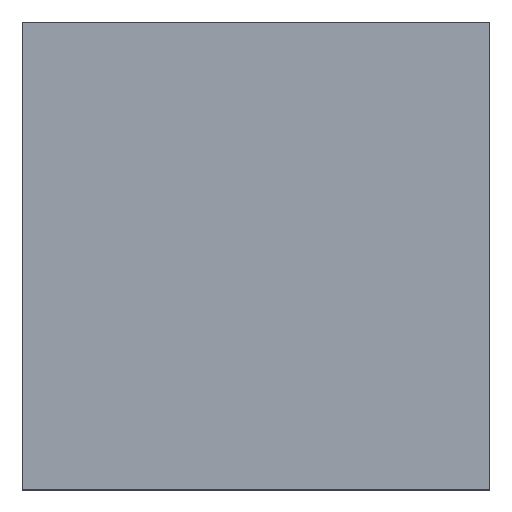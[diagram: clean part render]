
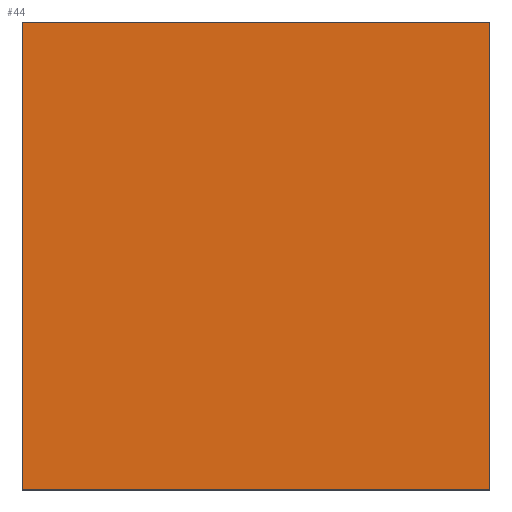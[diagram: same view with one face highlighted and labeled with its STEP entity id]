
A CAD part, top view. The second image highlights one B-rep face of the part: STEP entity #44.
In plain terms, the highlighted planar face has unit normal (0, 0, 1).
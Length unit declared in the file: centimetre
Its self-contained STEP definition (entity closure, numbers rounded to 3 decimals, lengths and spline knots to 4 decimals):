
#1 = EDGE_CURVE ( 'NONE', #108, #120, #337, .T. ) ;
#2 = VECTOR ( 'NONE', #112, 100. ) ;
#11 = ORIENTED_EDGE ( 'NONE', *, *, #398, .T. ) ;
#37 = ORIENTED_EDGE ( 'NONE', *, *, #416, .T. ) ;
#44 = ADVANCED_FACE ( 'NONE', ( #92 ), #102, .T. ) ;
#49 = CARTESIAN_POINT ( 'NONE',  ( 0., 0., 1000. ) ) ;
#52 = VERTEX_POINT ( 'NONE', #97 ) ;
#66 = CARTESIAN_POINT ( 'NONE',  ( 0., 0., 1000. ) ) ;
#78 = VECTOR ( 'NONE', #431, 100. ) ;
#92 = FACE_OUTER_BOUND ( 'NONE', #208, .T. ) ;
#97 = CARTESIAN_POINT ( 'NONE',  ( 1000., 1000., 1000. ) ) ;
#100 = VECTOR ( 'NONE', #296, 100. ) ;
#102 = PLANE ( 'NONE',  #283 ) ;
#108 = VERTEX_POINT ( 'NONE', #49 ) ;
#111 = ORIENTED_EDGE ( 'NONE', *, *, #209, .T. ) ;
#112 = DIRECTION ( 'NONE',  ( 1., 0., 0. ) ) ;
#113 = CARTESIAN_POINT ( 'NONE',  ( 0., 0., 1000. ) ) ;
#120 = VERTEX_POINT ( 'NONE', #314 ) ;
#127 = LINE ( 'NONE', #331, #139 ) ;
#139 = VECTOR ( 'NONE', #404, 100. ) ;
#156 = CARTESIAN_POINT ( 'NONE',  ( 0., 1000., 1000. ) ) ;
#171 = LINE ( 'NONE', #156, #100 ) ;
#208 = EDGE_LOOP ( 'NONE', ( #11, #374, #37, #111 ) ) ;
#209 = EDGE_CURVE ( 'NONE', #52, #241, #260, .T. ) ;
#219 = DIRECTION ( 'NONE',  ( 0., 0., 1. ) ) ;
#241 = VERTEX_POINT ( 'NONE', #386 ) ;
#259 = DIRECTION ( 'NONE',  ( 1., 0., 0. ) ) ;
#260 = LINE ( 'NONE', #422, #78 ) ;
#283 = AXIS2_PLACEMENT_3D ( 'NONE', #66, #219, #259 ) ;
#296 = DIRECTION ( 'NONE',  ( 0., -1., 0. ) ) ;
#314 = CARTESIAN_POINT ( 'NONE',  ( 1000., 0., 1000. ) ) ;
#331 = CARTESIAN_POINT ( 'NONE',  ( 1000., 1000., 1000. ) ) ;
#337 = LINE ( 'NONE', #113, #2 ) ;
#374 = ORIENTED_EDGE ( 'NONE', *, *, #1, .T. ) ;
#386 = CARTESIAN_POINT ( 'NONE',  ( 0., 1000., 1000. ) ) ;
#398 = EDGE_CURVE ( 'NONE', #241, #108, #171, .T. ) ;
#404 = DIRECTION ( 'NONE',  ( 0., 1., 0. ) ) ;
#416 = EDGE_CURVE ( 'NONE', #120, #52, #127, .T. ) ;
#422 = CARTESIAN_POINT ( 'NONE',  ( 0., 1000., 1000. ) ) ;
#431 = DIRECTION ( 'NONE',  ( -1., 0., 0. ) ) ;
